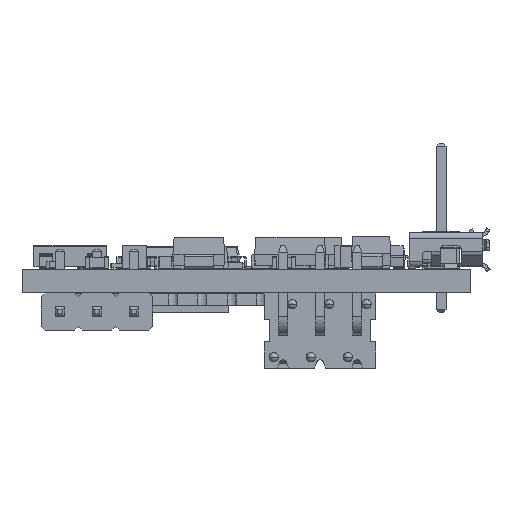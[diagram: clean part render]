
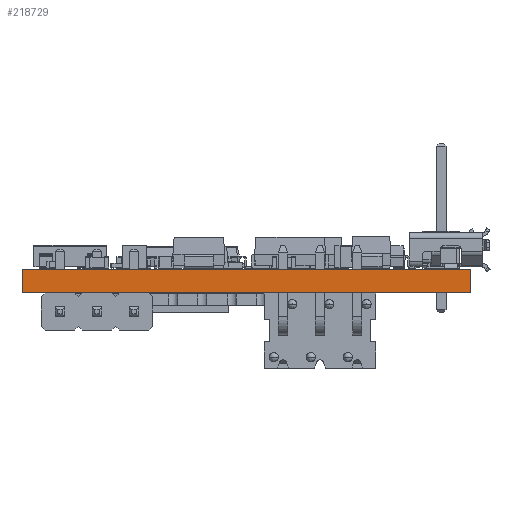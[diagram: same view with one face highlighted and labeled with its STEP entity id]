
A CAD part, left-side view. The second image highlights one B-rep face of the part: STEP entity #218729.
In plain terms, the highlighted planar face has unit normal (-1, 0, 0).
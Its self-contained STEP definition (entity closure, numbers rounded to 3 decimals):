
#218548 = PLANE('',#218549);
#218549 = AXIS2_PLACEMENT_3D('',#218550,#218551,#218552);
#218550 = CARTESIAN_POINT('',(72.,-50.1,0.));
#218551 = DIRECTION('',(0.,-1.,0.));
#218552 = DIRECTION('',(-1.,0.,0.));
#218573 = VERTEX_POINT('',#218574);
#218574 = CARTESIAN_POINT('',(24.9,-50.1,1.58));
#218588 = PLANE('',#218589);
#218589 = AXIS2_PLACEMENT_3D('',#218590,#218591,#218592);
#218590 = CARTESIAN_POINT('',(48.45,-34.75,1.58));
#218591 = DIRECTION('',(-0.,-0.,-1.));
#218592 = DIRECTION('',(-1.,0.,0.));
#218600 = EDGE_CURVE('',#218601,#218573,#218603,.T.);
#218601 = VERTEX_POINT('',#218602);
#218602 = CARTESIAN_POINT('',(24.9,-50.1,0.));
#218603 = SURFACE_CURVE('',#218604,(#218608,#218615),.PCURVE_S1.);
#218604 = LINE('',#218605,#218606);
#218605 = CARTESIAN_POINT('',(24.9,-50.1,0.));
#218606 = VECTOR('',#218607,1.);
#218607 = DIRECTION('',(0.,0.,1.));
#218608 = PCURVE('',#218548,#218609);
#218609 = DEFINITIONAL_REPRESENTATION('',(#218610),#218614);
#218610 = LINE('',#218611,#218612);
#218611 = CARTESIAN_POINT('',(47.1,0.));
#218612 = VECTOR('',#218613,1.);
#218613 = DIRECTION('',(0.,-1.));
#218614 = ( GEOMETRIC_REPRESENTATION_CONTEXT(2) 
PARAMETRIC_REPRESENTATION_CONTEXT() REPRESENTATION_CONTEXT('2D SPACE',''
  ) );
#218615 = PCURVE('',#218616,#218621);
#218616 = PLANE('',#218617);
#218617 = AXIS2_PLACEMENT_3D('',#218618,#218619,#218620);
#218618 = CARTESIAN_POINT('',(24.9,-50.1,0.));
#218619 = DIRECTION('',(-1.,0.,0.));
#218620 = DIRECTION('',(0.,1.,0.));
#218621 = DEFINITIONAL_REPRESENTATION('',(#218622),#218626);
#218622 = LINE('',#218623,#218624);
#218623 = CARTESIAN_POINT('',(0.,0.));
#218624 = VECTOR('',#218625,1.);
#218625 = DIRECTION('',(0.,-1.));
#218626 = ( GEOMETRIC_REPRESENTATION_CONTEXT(2) 
PARAMETRIC_REPRESENTATION_CONTEXT() REPRESENTATION_CONTEXT('2D SPACE',''
  ) );
#218642 = PLANE('',#218643);
#218643 = AXIS2_PLACEMENT_3D('',#218644,#218645,#218646);
#218644 = CARTESIAN_POINT('',(48.45,-34.75,0.));
#218645 = DIRECTION('',(-0.,-0.,-1.));
#218646 = DIRECTION('',(-1.,0.,0.));
#218675 = PLANE('',#218676);
#218676 = AXIS2_PLACEMENT_3D('',#218677,#218678,#218679);
#218677 = CARTESIAN_POINT('',(24.9,-19.4,0.));
#218678 = DIRECTION('',(0.,1.,0.));
#218679 = DIRECTION('',(1.,0.,0.));
#218729 = ADVANCED_FACE('',(#218730),#218616,.T.);
#218730 = FACE_BOUND('',#218731,.T.);
#218731 = EDGE_LOOP('',(#218732,#218733,#218756,#218779));
#218732 = ORIENTED_EDGE('',*,*,#218600,.T.);
#218733 = ORIENTED_EDGE('',*,*,#218734,.T.);
#218734 = EDGE_CURVE('',#218573,#218735,#218737,.T.);
#218735 = VERTEX_POINT('',#218736);
#218736 = CARTESIAN_POINT('',(24.9,-19.4,1.58));
#218737 = SURFACE_CURVE('',#218738,(#218742,#218749),.PCURVE_S1.);
#218738 = LINE('',#218739,#218740);
#218739 = CARTESIAN_POINT('',(24.9,-50.1,1.58));
#218740 = VECTOR('',#218741,1.);
#218741 = DIRECTION('',(0.,1.,0.));
#218742 = PCURVE('',#218616,#218743);
#218743 = DEFINITIONAL_REPRESENTATION('',(#218744),#218748);
#218744 = LINE('',#218745,#218746);
#218745 = CARTESIAN_POINT('',(0.,-1.58));
#218746 = VECTOR('',#218747,1.);
#218747 = DIRECTION('',(1.,0.));
#218748 = ( GEOMETRIC_REPRESENTATION_CONTEXT(2) 
PARAMETRIC_REPRESENTATION_CONTEXT() REPRESENTATION_CONTEXT('2D SPACE',''
  ) );
#218749 = PCURVE('',#218588,#218750);
#218750 = DEFINITIONAL_REPRESENTATION('',(#218751),#218755);
#218751 = LINE('',#218752,#218753);
#218752 = CARTESIAN_POINT('',(23.55,-15.35));
#218753 = VECTOR('',#218754,1.);
#218754 = DIRECTION('',(0.,1.));
#218755 = ( GEOMETRIC_REPRESENTATION_CONTEXT(2) 
PARAMETRIC_REPRESENTATION_CONTEXT() REPRESENTATION_CONTEXT('2D SPACE',''
  ) );
#218756 = ORIENTED_EDGE('',*,*,#218757,.F.);
#218757 = EDGE_CURVE('',#218758,#218735,#218760,.T.);
#218758 = VERTEX_POINT('',#218759);
#218759 = CARTESIAN_POINT('',(24.9,-19.4,0.));
#218760 = SURFACE_CURVE('',#218761,(#218765,#218772),.PCURVE_S1.);
#218761 = LINE('',#218762,#218763);
#218762 = CARTESIAN_POINT('',(24.9,-19.4,0.));
#218763 = VECTOR('',#218764,1.);
#218764 = DIRECTION('',(0.,0.,1.));
#218765 = PCURVE('',#218616,#218766);
#218766 = DEFINITIONAL_REPRESENTATION('',(#218767),#218771);
#218767 = LINE('',#218768,#218769);
#218768 = CARTESIAN_POINT('',(30.7,0.));
#218769 = VECTOR('',#218770,1.);
#218770 = DIRECTION('',(0.,-1.));
#218771 = ( GEOMETRIC_REPRESENTATION_CONTEXT(2) 
PARAMETRIC_REPRESENTATION_CONTEXT() REPRESENTATION_CONTEXT('2D SPACE',''
  ) );
#218772 = PCURVE('',#218675,#218773);
#218773 = DEFINITIONAL_REPRESENTATION('',(#218774),#218778);
#218774 = LINE('',#218775,#218776);
#218775 = CARTESIAN_POINT('',(0.,0.));
#218776 = VECTOR('',#218777,1.);
#218777 = DIRECTION('',(0.,-1.));
#218778 = ( GEOMETRIC_REPRESENTATION_CONTEXT(2) 
PARAMETRIC_REPRESENTATION_CONTEXT() REPRESENTATION_CONTEXT('2D SPACE',''
  ) );
#218779 = ORIENTED_EDGE('',*,*,#218780,.F.);
#218780 = EDGE_CURVE('',#218601,#218758,#218781,.T.);
#218781 = SURFACE_CURVE('',#218782,(#218786,#218793),.PCURVE_S1.);
#218782 = LINE('',#218783,#218784);
#218783 = CARTESIAN_POINT('',(24.9,-50.1,0.));
#218784 = VECTOR('',#218785,1.);
#218785 = DIRECTION('',(0.,1.,0.));
#218786 = PCURVE('',#218616,#218787);
#218787 = DEFINITIONAL_REPRESENTATION('',(#218788),#218792);
#218788 = LINE('',#218789,#218790);
#218789 = CARTESIAN_POINT('',(0.,0.));
#218790 = VECTOR('',#218791,1.);
#218791 = DIRECTION('',(1.,0.));
#218792 = ( GEOMETRIC_REPRESENTATION_CONTEXT(2) 
PARAMETRIC_REPRESENTATION_CONTEXT() REPRESENTATION_CONTEXT('2D SPACE',''
  ) );
#218793 = PCURVE('',#218642,#218794);
#218794 = DEFINITIONAL_REPRESENTATION('',(#218795),#218799);
#218795 = LINE('',#218796,#218797);
#218796 = CARTESIAN_POINT('',(23.55,-15.35));
#218797 = VECTOR('',#218798,1.);
#218798 = DIRECTION('',(0.,1.));
#218799 = ( GEOMETRIC_REPRESENTATION_CONTEXT(2) 
PARAMETRIC_REPRESENTATION_CONTEXT() REPRESENTATION_CONTEXT('2D SPACE',''
  ) );
